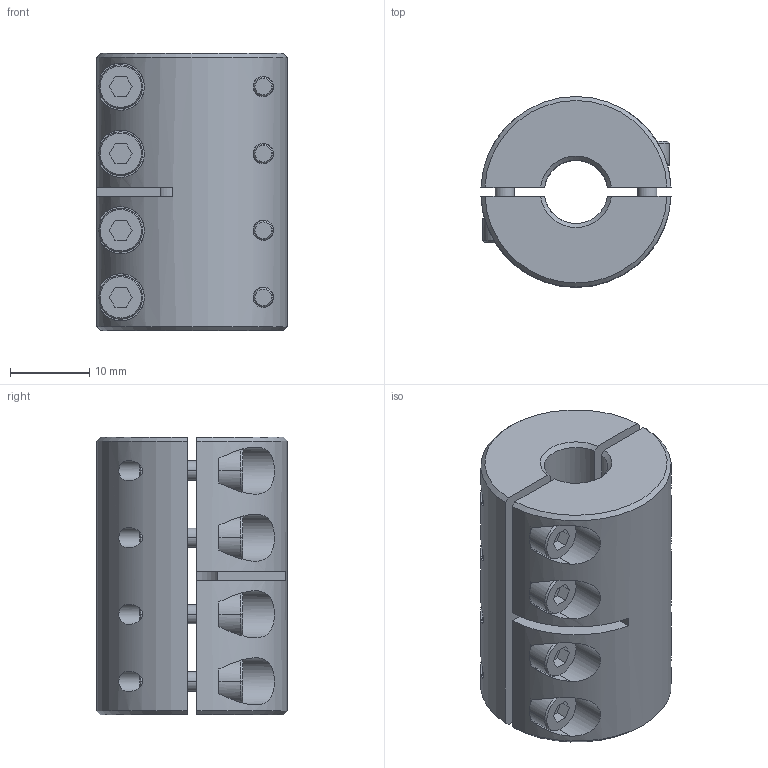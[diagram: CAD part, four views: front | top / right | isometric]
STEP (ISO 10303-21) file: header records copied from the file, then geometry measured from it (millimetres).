
FILE_DESCRIPTION((''),'2;1');
FILE_NAME('MSPX-8-8-F','2016-09-08T',('SYSTEM'),(''),'PRO/ENGINEER BY PARAMETRIC TECHNOLOGY CORPORATION, 2015110','PRO/ENGINEER BY PARAMETRIC TECHNOLOGY CORPORATION, 2015110','');
FILE_SCHEMA(('AUTOMOTIVE_DESIGN { 1 0 10303 214 1 1 1 1 }'));
Length unit declared in the file: millimetre
Products named in the file (1): MSPX-8-8-F
Bounding box: 23.97 x 24 x 35 mm (x, y, z)
Volume: 12649.5 mm3; surface area: 7598.5 mm2
Topology: 2 solids, 2 shells, 244 faces, 576 edges, 368 vertices
Faces by surface type: plane 112, cylinder 92, cone 40
Entity records: 9305 total; most frequent: CARTESIAN_POINT 1806, DIRECTION 1216, ORIENTED_EDGE 1152, EDGE_CURVE 576, AXIS2_PLACEMENT_3D 452, VERTEX_POINT 368, VECTOR 312, LINE 312
